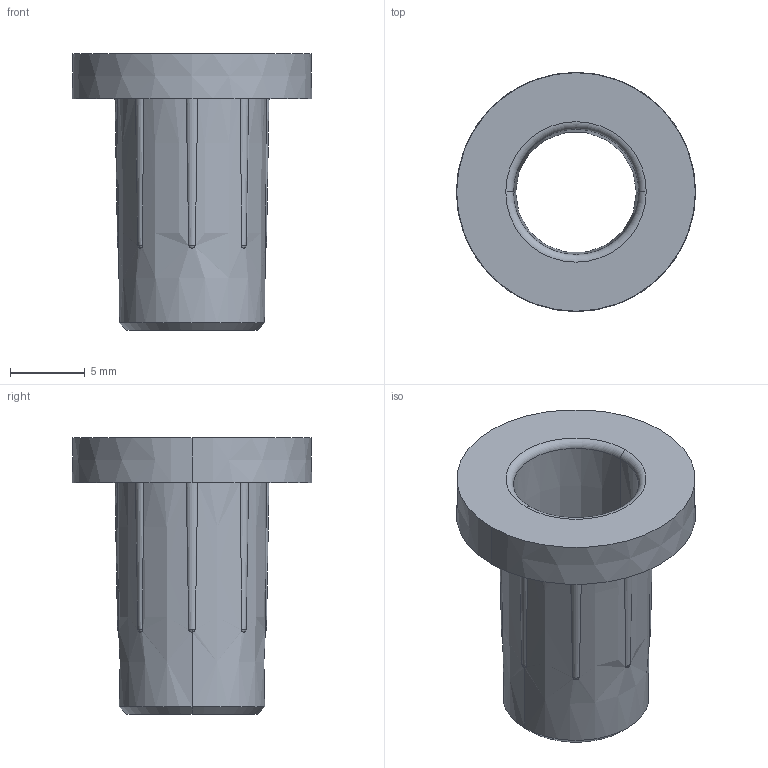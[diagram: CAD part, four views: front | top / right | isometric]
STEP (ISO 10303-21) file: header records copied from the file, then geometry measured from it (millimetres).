
FILE_DESCRIPTION (( 'STEP AP203' ), '1' );
FILE_NAME ('013.100.026.STEP', '2020-11-02T09:23:12', ( '' ), ( '' ), 'SwSTEP 2.0', 'SolidWorks 2018', '' );
FILE_SCHEMA (( 'CONFIG_CONTROL_DESIGN' ));
Length unit declared in the file: millimetre
Products named in the file (1): 013.100.026
Bounding box: 16 x 16 x 18.5 mm (x, y, z)
Volume: 791.6 mm3; surface area: 1388.8 mm2
Topology: 1 solids, 1 shells, 31 faces, 78 edges, 50 vertices
Faces by surface type: cone 16, torus 12, plane 3
Entity records: 1171 total; most frequent: CARTESIAN_POINT 354, DIRECTION 160, ORIENTED_EDGE 156, EDGE_CURVE 78, AXIS2_PLACEMENT_3D 76, VERTEX_POINT 50, CIRCLE 44, EDGE_LOOP 34
